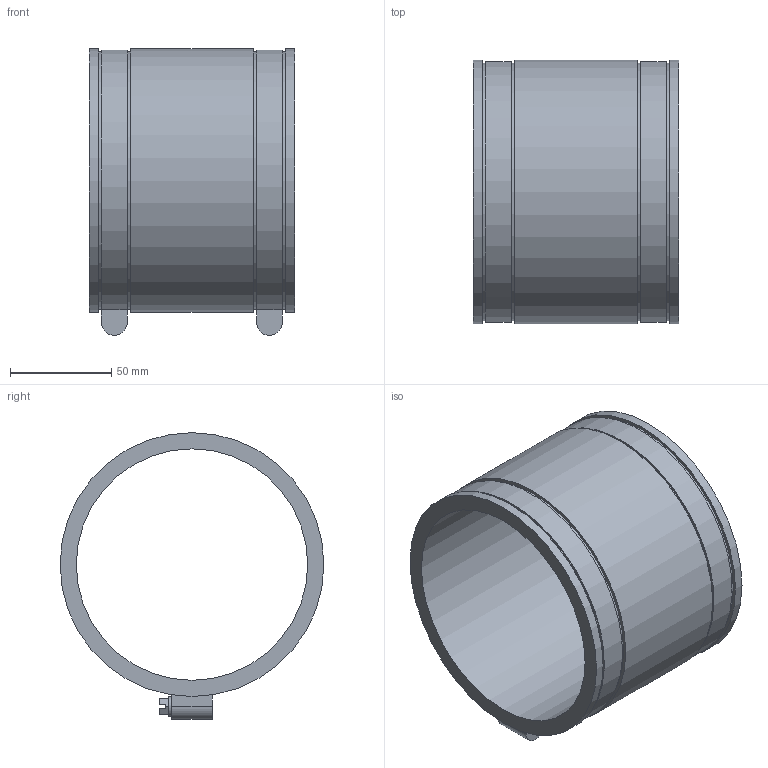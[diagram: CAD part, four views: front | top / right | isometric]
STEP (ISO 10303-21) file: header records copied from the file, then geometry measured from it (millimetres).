
FILE_DESCRIPTION(/* description */ ('Alibre Inc.'),/* implementation_level */ '2;1');
FILE_NAME(/* name */ 'export0',/* time_stamp */ '2010-12-06T10:54:48-05:00',/* author */ (''),/* organization */ (''),/* preprocessor_version */ 'ST-DEVELOPER v10',/* originating_system */ 'Alibre',/* authorisation */ '');
FILE_SCHEMA (('AUTOMOTIVE_DESIGN'));
Length unit declared in the file: centimetre
Bounding box: 101.6 x 130.3 x 141.6 mm (x, y, z)
Volume: 309503.5 mm3; surface area: 110247.3 mm2
Topology: 3 solids, 3 shells, 54 faces, 120 edges, 80 vertices
Faces by surface type: plane 40, cylinder 14
Full cylindrical faces by diameter (mm): 9.525 x2, 114.3 x1, 127.254 x2, 130.302 x3
Entity records: 910 total; most frequent: CARTESIAN_POINT 146, DIRECTION 136, ORIENTED_EDGE 124, EDGE_CURVE 62, AXIS2_PLACEMENT_3D 58, EDGE_LOOP 50, FACE_BOUND 50, VERTEX_POINT 46
